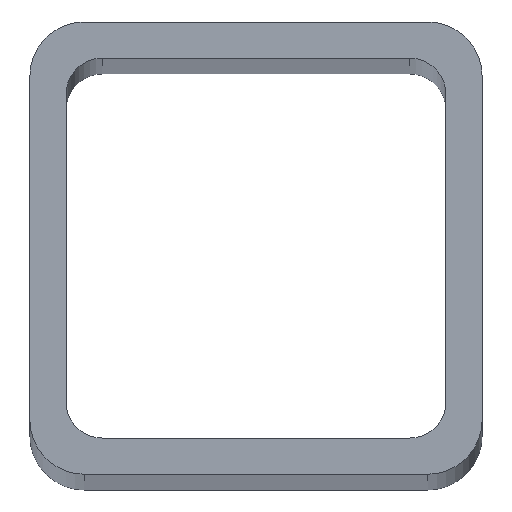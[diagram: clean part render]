
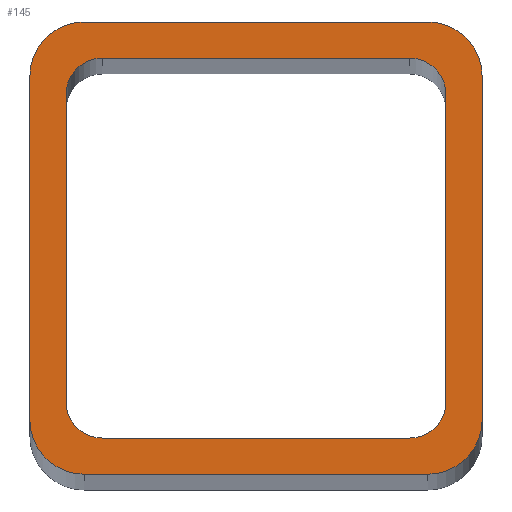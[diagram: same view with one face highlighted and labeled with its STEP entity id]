
A CAD part, top view. The second image highlights one B-rep face of the part: STEP entity #145.
In plain terms, the highlighted planar face has unit normal (0, 0, 1).
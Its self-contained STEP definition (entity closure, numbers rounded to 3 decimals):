
#4 = CARTESIAN_POINT ( 'NONE',  ( -9.5, 9.5, 250. ) ) ;
#5 = DIRECTION ( 'NONE',  ( 0., -1., 0. ) ) ;
#12 = CARTESIAN_POINT ( 'NONE',  ( -8.5, -8.5, 250. ) ) ;
#15 = ORIENTED_EDGE ( 'NONE', *, *, #574, .T. ) ;
#29 = LINE ( 'NONE', #38, #83 ) ;
#33 = CARTESIAN_POINT ( 'NONE',  ( 10.5, -8.5, 250. ) ) ;
#37 = EDGE_CURVE ( 'NONE', #250, #275, #170, .T. ) ;
#38 = CARTESIAN_POINT ( 'NONE',  ( 12.5, 9.5, 250. ) ) ;
#47 = AXIS2_PLACEMENT_3D ( 'NONE', #63, #384, #194 ) ;
#60 = DIRECTION ( 'NONE',  ( -1., 0., 0. ) ) ;
#63 = CARTESIAN_POINT ( 'NONE',  ( 9.5, -9.5, 250. ) ) ;
#68 = ORIENTED_EDGE ( 'NONE', *, *, #545, .T. ) ;
#72 = EDGE_CURVE ( 'NONE', #573, #250, #421, .T. ) ;
#75 = DIRECTION ( 'NONE',  ( 0., 1., 0. ) ) ;
#76 = CIRCLE ( 'NONE', #227, 3. ) ;
#77 = ORIENTED_EDGE ( 'NONE', *, *, #239, .T. ) ;
#82 = VERTEX_POINT ( 'NONE', #112 ) ;
#83 = VECTOR ( 'NONE', #75, 1000. ) ;
#86 = VERTEX_POINT ( 'NONE', #424 ) ;
#87 = DIRECTION ( 'NONE',  ( 0., 0., 1. ) ) ;
#94 = DIRECTION ( 'NONE',  ( 1., 0., 0. ) ) ;
#95 = CARTESIAN_POINT ( 'NONE',  ( 8.5, -10.5, 250. ) ) ;
#96 = EDGE_CURVE ( 'NONE', #275, #258, #230, .T. ) ;
#99 = CARTESIAN_POINT ( 'NONE',  ( 10.5, 8.5, 250. ) ) ;
#100 = VERTEX_POINT ( 'NONE', #99 ) ;
#110 = CARTESIAN_POINT ( 'NONE',  ( 12.5, 9.5, 250. ) ) ;
#112 = CARTESIAN_POINT ( 'NONE',  ( -9.5, 12.5, 250. ) ) ;
#115 = VECTOR ( 'NONE', #342, 1000. ) ;
#130 = EDGE_CURVE ( 'NONE', #579, #340, #597, .T. ) ;
#142 = CARTESIAN_POINT ( 'NONE',  ( 9.5, 9.5, 250. ) ) ;
#143 = ORIENTED_EDGE ( 'NONE', *, *, #569, .F. ) ;
#145 = ADVANCED_FACE ( 'NONE', ( #181, #321 ), #559, .F. ) ;
#147 = CARTESIAN_POINT ( 'NONE',  ( -8.5, -10.5, 250. ) ) ;
#151 = CARTESIAN_POINT ( 'NONE',  ( 8.5, -10.5, 250. ) ) ;
#155 = CARTESIAN_POINT ( 'NONE',  ( 9.5, 9.5, 250. ) ) ;
#170 = CIRCLE ( 'NONE', #308, 2. ) ;
#174 = CARTESIAN_POINT ( 'NONE',  ( -9.5, 12.5, 250. ) ) ;
#177 = CARTESIAN_POINT ( 'NONE',  ( -8.5, 10.5, 250. ) ) ;
#178 = CARTESIAN_POINT ( 'NONE',  ( -12.5, 9.5, 250. ) ) ;
#181 = FACE_OUTER_BOUND ( 'NONE', #252, .T. ) ;
#183 = DIRECTION ( 'NONE',  ( 0., 0., 1. ) ) ;
#190 = VERTEX_POINT ( 'NONE', #566 ) ;
#194 = DIRECTION ( 'NONE',  ( 1., 0., 0. ) ) ;
#196 = CARTESIAN_POINT ( 'NONE',  ( -9.5, -12.5, 250. ) ) ;
#198 = DIRECTION ( 'NONE',  ( 0., -1., 0. ) ) ;
#212 = EDGE_CURVE ( 'NONE', #190, #458, #371, .T. ) ;
#220 = VECTOR ( 'NONE', #5, 1000. ) ;
#227 = AXIS2_PLACEMENT_3D ( 'NONE', #4, #87, #329 ) ;
#230 = LINE ( 'NONE', #95, #589 ) ;
#239 = EDGE_CURVE ( 'NONE', #297, #190, #376, .T. ) ;
#243 = DIRECTION ( 'NONE',  ( 0., 0., 1. ) ) ;
#245 = LINE ( 'NONE', #432, #115 ) ;
#246 = EDGE_CURVE ( 'NONE', #324, #86, #540, .T. ) ;
#250 = VERTEX_POINT ( 'NONE', #339 ) ;
#252 = EDGE_LOOP ( 'NONE', ( #367, #564, #15, #428, #68, #77, #345, #521 ) ) ;
#253 = EDGE_CURVE ( 'NONE', #538, #476, #467, .T. ) ;
#257 = DIRECTION ( 'NONE',  ( 1., 0., 0. ) ) ;
#258 = VERTEX_POINT ( 'NONE', #151 ) ;
#259 = CARTESIAN_POINT ( 'NONE',  ( -12.5, -9.5, 250. ) ) ;
#265 = AXIS2_PLACEMENT_3D ( 'NONE', #335, #243, #422 ) ;
#272 = ORIENTED_EDGE ( 'NONE', *, *, #37, .F. ) ;
#273 = CARTESIAN_POINT ( 'NONE',  ( -8.5, 8.5, 250. ) ) ;
#275 = VERTEX_POINT ( 'NONE', #147 ) ;
#283 = EDGE_CURVE ( 'NONE', #350, #100, #245, .T. ) ;
#294 = ORIENTED_EDGE ( 'NONE', *, *, #253, .F. ) ;
#295 = CARTESIAN_POINT ( 'NONE',  ( -9.5, -12.5, 250. ) ) ;
#297 = VERTEX_POINT ( 'NONE', #196 ) ;
#305 = EDGE_CURVE ( 'NONE', #100, #538, #529, .T. ) ;
#308 = AXIS2_PLACEMENT_3D ( 'NONE', #12, #389, #580 ) ;
#310 = VECTOR ( 'NONE', #396, 1000. ) ;
#321 = FACE_BOUND ( 'NONE', #378, .T. ) ;
#324 = VERTEX_POINT ( 'NONE', #110 ) ;
#329 = DIRECTION ( 'NONE',  ( 1., 0., 0. ) ) ;
#335 = CARTESIAN_POINT ( 'NONE',  ( 8.5, 8.5, 250. ) ) ;
#336 = CIRCLE ( 'NONE', #506, 2. ) ;
#339 = CARTESIAN_POINT ( 'NONE',  ( -10.5, -8.5, 250. ) ) ;
#340 = VERTEX_POINT ( 'NONE', #259 ) ;
#342 = DIRECTION ( 'NONE',  ( 0., 1., 0. ) ) ;
#345 = ORIENTED_EDGE ( 'NONE', *, *, #212, .T. ) ;
#346 = CARTESIAN_POINT ( 'NONE',  ( 12.5, -9.5, 250. ) ) ;
#350 = VERTEX_POINT ( 'NONE', #33 ) ;
#365 = CARTESIAN_POINT ( 'NONE',  ( -10.5, 8.5, 250. ) ) ;
#366 = DIRECTION ( 'NONE',  ( -1., 0., 0. ) ) ;
#367 = ORIENTED_EDGE ( 'NONE', *, *, #246, .T. ) ;
#371 = CIRCLE ( 'NONE', #47, 3. ) ;
#376 = LINE ( 'NONE', #295, #518 ) ;
#378 = EDGE_LOOP ( 'NONE', ( #461, #437, #541, #520, #272, #584, #143, #294 ) ) ;
#381 = DIRECTION ( 'NONE',  ( -1., 0., 0. ) ) ;
#384 = DIRECTION ( 'NONE',  ( 0., 0., 1. ) ) ;
#389 = DIRECTION ( 'NONE',  ( 0., 0., 1. ) ) ;
#391 = EDGE_CURVE ( 'NONE', #258, #350, #558, .T. ) ;
#393 = VECTOR ( 'NONE', #381, 1000. ) ;
#396 = DIRECTION ( 'NONE',  ( -1., 0., 0. ) ) ;
#421 = LINE ( 'NONE', #565, #426 ) ;
#422 = DIRECTION ( 'NONE',  ( 1., 0., 0. ) ) ;
#424 = CARTESIAN_POINT ( 'NONE',  ( 9.5, 12.5, 250. ) ) ;
#426 = VECTOR ( 'NONE', #198, 1000. ) ;
#428 = ORIENTED_EDGE ( 'NONE', *, *, #130, .T. ) ;
#432 = CARTESIAN_POINT ( 'NONE',  ( 10.5, -8.5, 250. ) ) ;
#437 = ORIENTED_EDGE ( 'NONE', *, *, #283, .F. ) ;
#439 = EDGE_CURVE ( 'NONE', #458, #324, #29, .T. ) ;
#448 = EDGE_CURVE ( 'NONE', #86, #82, #593, .T. ) ;
#452 = CARTESIAN_POINT ( 'NONE',  ( 8.5, 10.5, 250. ) ) ;
#453 = DIRECTION ( 'NONE',  ( 1., 0., 0. ) ) ;
#458 = VERTEX_POINT ( 'NONE', #346 ) ;
#459 = DIRECTION ( 'NONE',  ( 1., 0., 0. ) ) ;
#461 = ORIENTED_EDGE ( 'NONE', *, *, #305, .F. ) ;
#467 = LINE ( 'NONE', #517, #393 ) ;
#472 = DIRECTION ( 'NONE',  ( 1., 0., 0. ) ) ;
#476 = VERTEX_POINT ( 'NONE', #177 ) ;
#490 = CARTESIAN_POINT ( 'NONE',  ( 8.5, -8.5, 250. ) ) ;
#506 = AXIS2_PLACEMENT_3D ( 'NONE', #273, #183, #459 ) ;
#509 = CARTESIAN_POINT ( 'NONE',  ( -12.5, 9.5, 250. ) ) ;
#510 = DIRECTION ( 'NONE',  ( 0., 0., -1. ) ) ;
#517 = CARTESIAN_POINT ( 'NONE',  ( 8.5, 10.5, 250. ) ) ;
#518 = VECTOR ( 'NONE', #472, 1000. ) ;
#520 = ORIENTED_EDGE ( 'NONE', *, *, #96, .F. ) ;
#521 = ORIENTED_EDGE ( 'NONE', *, *, #439, .T. ) ;
#528 = DIRECTION ( 'NONE',  ( 0., 0., 1. ) ) ;
#529 = CIRCLE ( 'NONE', #265, 2. ) ;
#538 = VERTEX_POINT ( 'NONE', #452 ) ;
#540 = CIRCLE ( 'NONE', #582, 3. ) ;
#541 = ORIENTED_EDGE ( 'NONE', *, *, #391, .F. ) ;
#545 = EDGE_CURVE ( 'NONE', #340, #297, #591, .T. ) ;
#552 = CARTESIAN_POINT ( 'NONE',  ( -9.5, -9.5, 250. ) ) ;
#554 = DIRECTION ( 'NONE',  ( 0., 0., 1. ) ) ;
#556 = AXIS2_PLACEMENT_3D ( 'NONE', #142, #510, #366 ) ;
#558 = CIRCLE ( 'NONE', #572, 2. ) ;
#559 = PLANE ( 'NONE',  #556 ) ;
#564 = ORIENTED_EDGE ( 'NONE', *, *, #448, .T. ) ;
#565 = CARTESIAN_POINT ( 'NONE',  ( -10.5, -8.5, 250. ) ) ;
#566 = CARTESIAN_POINT ( 'NONE',  ( 9.5, -12.5, 250. ) ) ;
#569 = EDGE_CURVE ( 'NONE', #476, #573, #336, .T. ) ;
#572 = AXIS2_PLACEMENT_3D ( 'NONE', #490, #581, #257 ) ;
#573 = VERTEX_POINT ( 'NONE', #365 ) ;
#574 = EDGE_CURVE ( 'NONE', #82, #579, #76, .T. ) ;
#579 = VERTEX_POINT ( 'NONE', #509 ) ;
#580 = DIRECTION ( 'NONE',  ( -1., 0., 0. ) ) ;
#581 = DIRECTION ( 'NONE',  ( 0., 0., 1. ) ) ;
#582 = AXIS2_PLACEMENT_3D ( 'NONE', #155, #528, #60 ) ;
#583 = AXIS2_PLACEMENT_3D ( 'NONE', #552, #554, #94 ) ;
#584 = ORIENTED_EDGE ( 'NONE', *, *, #72, .F. ) ;
#589 = VECTOR ( 'NONE', #453, 1000. ) ;
#591 = CIRCLE ( 'NONE', #583, 3. ) ;
#593 = LINE ( 'NONE', #174, #310 ) ;
#597 = LINE ( 'NONE', #178, #220 ) ;
